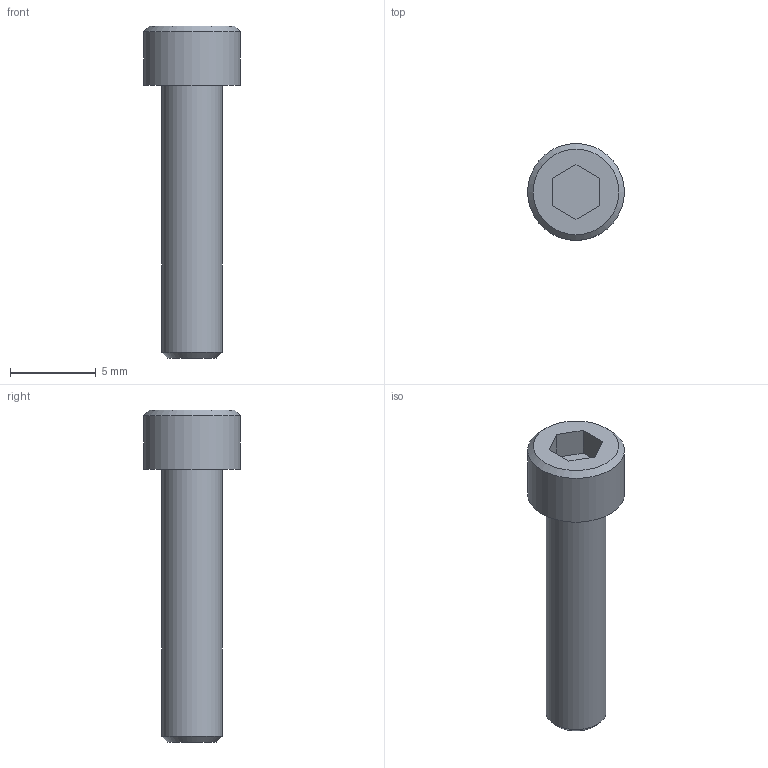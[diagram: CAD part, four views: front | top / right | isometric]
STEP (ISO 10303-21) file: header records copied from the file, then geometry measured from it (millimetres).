
FILE_DESCRIPTION((''),'2;1');
FILE_NAME('C:\Users\Stan\Desktop\import\SHCS 6-32 UNCx0.625.ipt.step','2011-08-18T17:44:42',(''),(''),'Autodesk Inventor 2012','Autodesk Inventor 2012','');
FILE_SCHEMA(('AUTOMOTIVE_DESIGN { 1 0 10303 214 1 1 1 1 }'));
Length unit declared in the file: inch
Products named in the file (1): SHCS 6-32 UNCx0.625
Bounding box: 5.64 x 5.64 x 19.33 mm (x, y, z)
Volume: 227.2 mm3; surface area: 295.7 mm2
Topology: 1 solids, 1 shells, 14 faces, 28 edges, 18 vertices
Faces by surface type: plane 10, cone 2, cylinder 2
Full cylindrical faces by diameter (mm): 3.505 x1, 5.639 x1
Entity records: 391 total; most frequent: DIRECTION 60, CARTESIAN_POINT 57, ORIENTED_EDGE 48, EDGE_CURVE 24, AXIS2_PLACEMENT_3D 21, EDGE_LOOP 20, VERTEX_POINT 18, VECTOR 18
